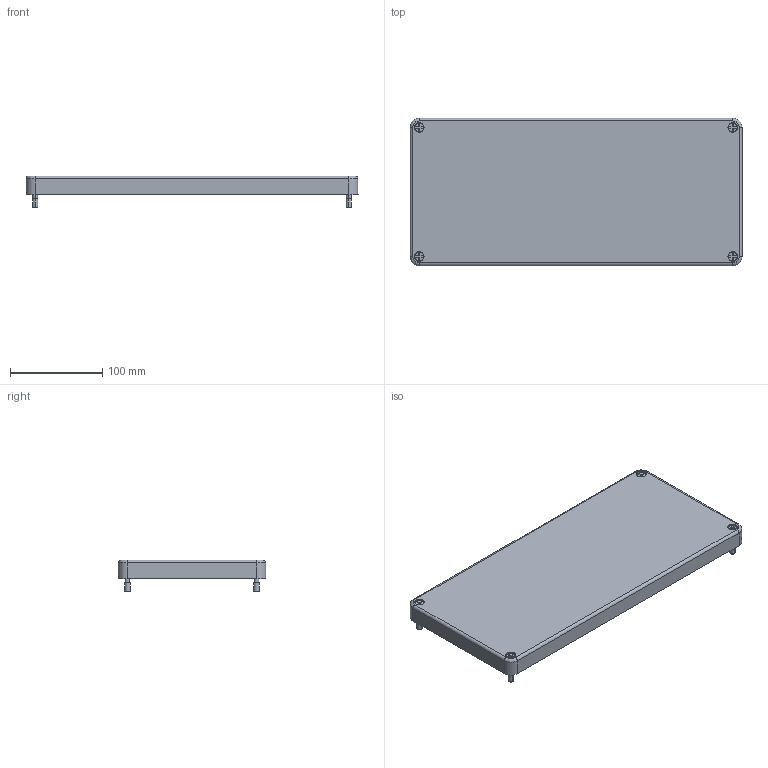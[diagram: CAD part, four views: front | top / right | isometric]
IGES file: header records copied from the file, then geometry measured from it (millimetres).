
Start section:  PTC IGES file: cd_ni-9921_lid.igs
Global section: file name: cd_ni-9921_lid.igs; native system: Pro/ENGINEER by Parametric Technology Corporation; preprocessor: 2006300; author: scarrasc; organization: Unknown; date: 20090715.160116; units: inch
Bounding box: 360 x 160 x 34.5 mm (x, y, z)
Surface area: 164343.7 mm2 (no closed solid volume)
Topology: 0 solids, 0 shells, 229 faces, 1168 edges, 1168 vertices
Faces by surface type: revolution 120, bspline 109
